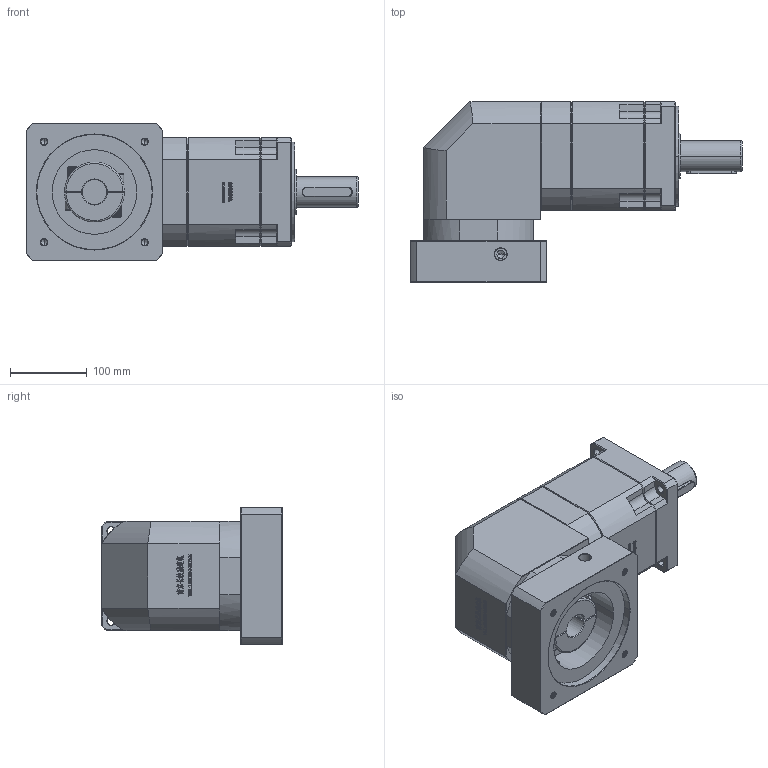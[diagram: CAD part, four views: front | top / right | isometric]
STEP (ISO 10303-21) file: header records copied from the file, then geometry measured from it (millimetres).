
FILE_DESCRIPTION (( 'STEP AP214' ), '1' );
FILE_NAME ('ZBR142A-D40-L3-32-150-185-M10.step', '2023-03-18T09:24:05', ( '' ), ( '' ), 'SwSTEP 2.0', 'SolidWorks 2016', '' );
FILE_SCHEMA (( 'AUTOMOTIVE_DESIGN' ));
Length unit declared in the file: millimetre
Products named in the file (1): ZBR142A-D40-L3-32-150-185-M10
Bounding box: 431.7 x 235 x 178 mm (x, y, z)
Volume: 7536132.8 mm3; surface area: 470639.9 mm2
Topology: 6 solids, 6 shells, 2938 faces, 7801 edges, 5012 vertices
Faces by surface type: plane 1552, bspline 596, cylinder 428, cone 340, torus 22
Entity records: 165053 total; most frequent: CARTESIAN_POINT 64526, ORIENTED_EDGE 15542, DIRECTION 11761, EDGE_CURVE 7771, LINE 5239, VECTOR 5239, VERTEX_POINT 5012, AXIS2_PLACEMENT_3D 3261
